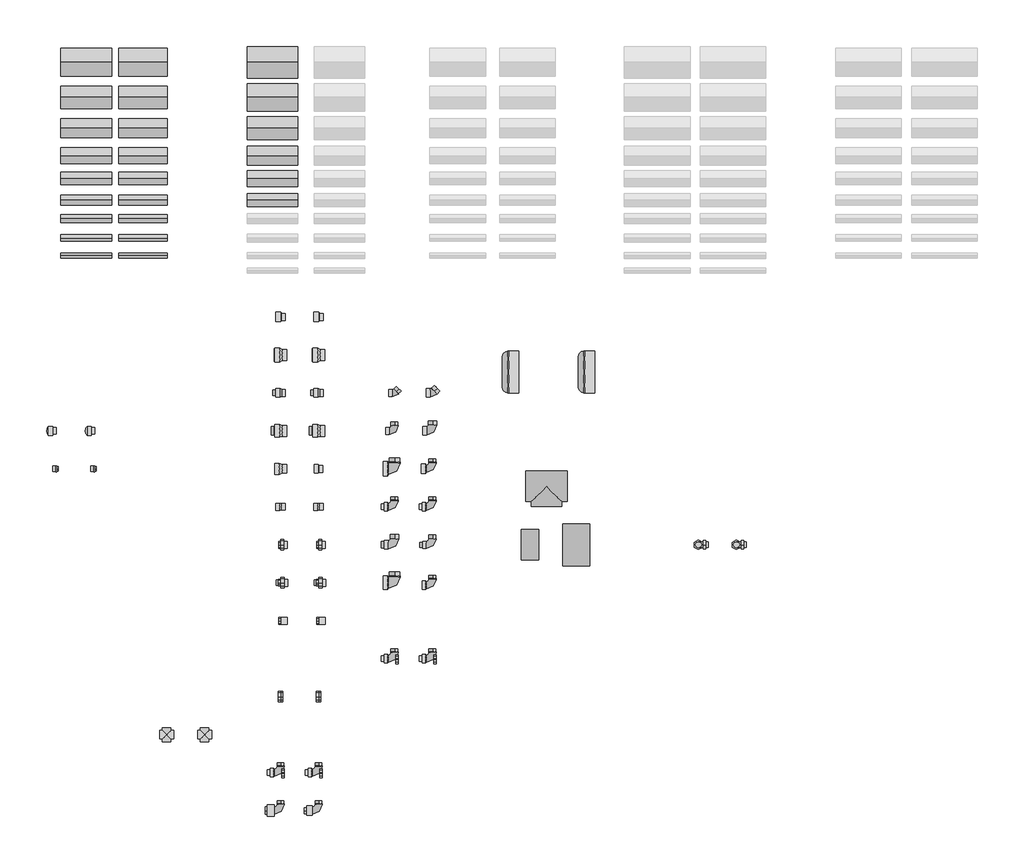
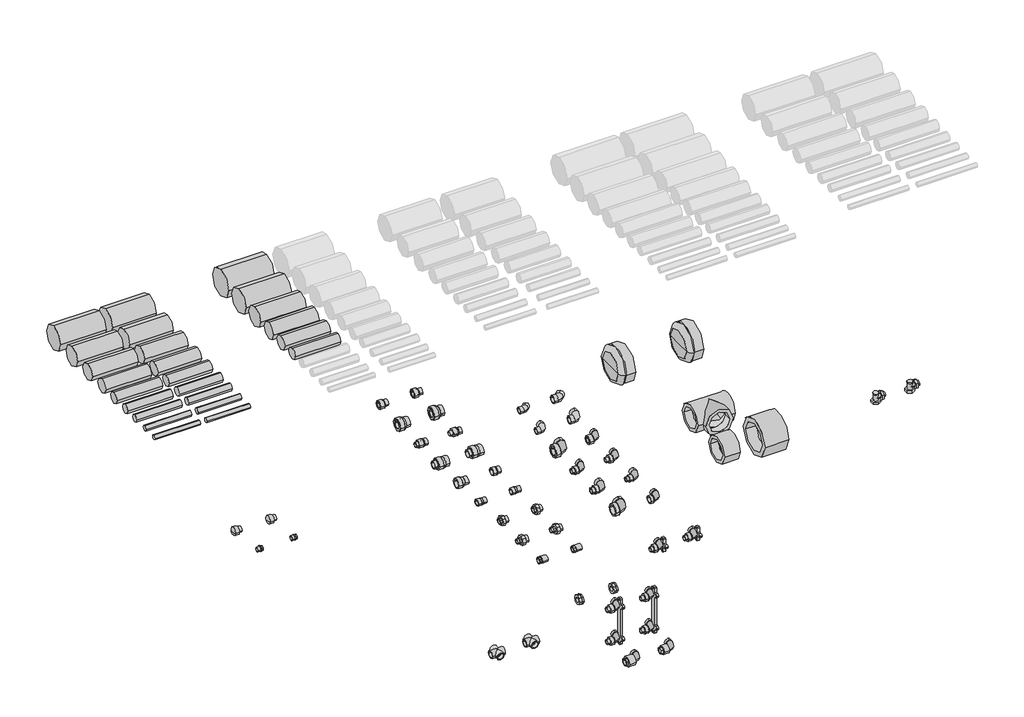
# One storey, part 1 of 4: 51 pipe fittings, 24 pipe segments.
"""IFC4 building model written with IfcOpenShell, lengths in millimetres."""

from ifc_helpers import new_model, si_unit, point, frame, frame_2d, origin, place, context, project, spatial, circle_curve, trimmed, segment, composite_curve, outline, extrude, transform, mapped, element, save
from components import pipe_fitting_8b9b9ca8, pipe_fitting_e818e856, pipe_fitting_68122e80, pipe_fitting_7646ac9f, pipe_fitting_f6f427d2, pipe_fitting_c594902a, pipe_fitting_2aa4dc1e, pipe_fitting_b7f75982, pipe_fitting_2798e5e2, pipe_fitting_6d745625, pipe_fitting_330d47a1, pipe_fitting_52d6f32c, pipe_fitting_684a8ba7, pipe_fitting_49972ef6, pipe_fitting_d9629d4b, pipe_fitting_4b135bd3, pipe_fitting_82489efc, pipe_fitting_dcf40ec0, pipe_fitting_a70e182a, pipe_fitting_a1eeb2e2, pipe_fitting_9a991c30, pipe_fitting_ed917fae, pipe_fitting_3f71ca70, pipe_fitting_843034e9, pipe_fitting_92d6d59a, pipe_fitting_425d0a09, pipe_fitting_83a6b1b9, pipe_fitting_7f82ed3a, pipe_fitting_814f7617, pipe_fitting_8fa956b8, pipe_fitting_03e7ff51, pipe_fitting_20e4d0cf, pipe_fitting_38df7a3a, pipe_fitting_f66fb6c4

model = new_model("IFC4")

# Units and contexts
model_context = context("Model", 3, world=origin())
ifc_project = project(units=[si_unit("LENGTHUNIT", "METRE", prefix="MILLI")], contexts=[model_context])

# Site, building, storey
site = spatial("IfcSite", under=ifc_project)
building = spatial("IfcBuilding", under=site)
storey = spatial("IfcBuildingStorey", under=building, Name="Уровень 1", Elevation=0.0)

# Pipe fittings
placement = place(None, origin())
pipe_fitting_shape = pipe_fitting_8b9b9ca8(model_context)
element("IfcPipeFitting", 1, ObjectType="09_Заглушка : Белый цвет", at=placement, inside=storey, context=model_context, shape_type="MappedRepresentation", body=[
    mapped(pipe_fitting_shape, transform((-1561.9180877, 3625.0515785, 0.0), x_axis=(1.0, 0.0, 0.0), y_axis=(0.0, 1.0, 0.0), z_axis=(0.0, 0.0, 1.0))),
])
element("IfcPipeFitting", 2, ObjectType="09_Заглушка : Серый цвет", at=placement, inside=storey, context=model_context, shape_type="MappedRepresentation", body=[
    mapped(pipe_fitting_shape, transform((-1261.9180877, 3625.2515785, 0.0), x_axis=(1.0, 0.0, 0.0), y_axis=(0.0, 1.0, 0.0), z_axis=(0.0, 0.0, 1.0))),
])
pipe_fitting_2_shape = pipe_fitting_e818e856(model_context)
element("IfcPipeFitting", 3, ObjectType="10_Заглушка резьбовая : Белый цвет", at=placement, inside=storey, context=model_context, shape_type="MappedRepresentation", body=[
    mapped(pipe_fitting_2_shape, transform((-3361.9180877, 3242.6515785, 0.0), x_axis=(1.0, 0.0, 0.0), y_axis=(0.0, 1.0, 0.0), z_axis=(0.0, 0.0, 1.0))),
])
element("IfcPipeFitting", 4, ObjectType="10_Заглушка резьбовая : Серый цвет", at=placement, inside=storey, context=model_context, shape_type="MappedRepresentation", body=[
    mapped(pipe_fitting_2_shape, transform((-3211.9180877, 3242.6515785, 0.0), x_axis=(1.0, 0.0, 0.0), y_axis=(0.0, 1.0, 0.0), z_axis=(0.0, 0.0, 1.0))),
])
pipe_fitting_3_shape = pipe_fitting_68122e80(model_context)
element("IfcPipeFitting", 5, ObjectType="17_Крестовина : Белый цвет", at=placement, inside=storey, context=model_context, shape_type="MappedRepresentation", body=[
    mapped(pipe_fitting_3_shape, transform((-2911.9180877, 2192.6515785, 0.0), x_axis=(1.0, 0.0, 0.0), y_axis=(0.0, 1.0, 0.0), z_axis=(0.0, 0.0, 1.0))),
])
element("IfcPipeFitting", 6, ObjectType="17_Крестовина : Серый цвет", at=placement, inside=storey, context=model_context, shape_type="MappedRepresentation", body=[
    mapped(pipe_fitting_3_shape, transform((-2761.9180877, 2192.6515785, 0.0), x_axis=(1.0, 0.0, 0.0), y_axis=(0.0, 1.0, 0.0), z_axis=(0.0, 0.0, 1.0))),
])
pipe_fitting_4_shape = pipe_fitting_7646ac9f(model_context)
element("IfcPipeFitting", 7, ObjectType="18_Муфта полипропиленовая : Белый цвет", at=placement, inside=storey, context=model_context, shape_type="MappedRepresentation", body=[
    mapped(pipe_fitting_4_shape, transform((-1294.4180877, 2942.6515785, 0.0), x_axis=(1.0, 0.0, 0.0), y_axis=(0.0, 1.0, 0.0), z_axis=(0.0, 0.0, 1.0))),
])
pipe_fitting_5_shape = pipe_fitting_f6f427d2(model_context)
element("IfcPipeFitting", 8, ObjectType="18_Муфта полипропиленовая : Серый цвет", at=placement, inside=storey, context=model_context, shape_type="MappedRepresentation", body=[
    mapped(pipe_fitting_5_shape, transform((-1477.084091, 2942.6515785, 0.0), x_axis=(1.0, 0.0, 0.0), y_axis=(0.0, 1.0, 0.0), z_axis=(0.0, 0.0, 1.0))),
])
pipe_fitting_6_shape = pipe_fitting_c594902a(model_context)
element("IfcPipeFitting", 9, ObjectType="19_Муфта комбинированная BP : Белый цвет", at=placement, inside=storey, context=model_context, shape_type="MappedRepresentation", body=[
    mapped(pipe_fitting_6_shape, transform((-2461.9180877, 3842.6515785, 0.0), x_axis=(1.0, 0.0, 0.0), y_axis=(0.0, 1.0, 0.0), z_axis=(0.0, 0.0, 1.0))),
])
element("IfcPipeFitting", 10, ObjectType="19_Муфта комбинированная BP : Серый цвет", at=placement, inside=storey, context=model_context, shape_type="MappedRepresentation", body=[
    mapped(pipe_fitting_6_shape, transform((-2311.9180877, 3842.6515785, 0.0), x_axis=(1.0, 0.0, 0.0), y_axis=(0.0, 1.0, 0.0), z_axis=(0.0, 0.0, 1.0))),
])
pipe_fitting_7_shape = pipe_fitting_2aa4dc1e(model_context)
element("IfcPipeFitting", 11, ObjectType="20_Муфта комбинированная под ключ ВР : Белый цвет", at=placement, inside=storey, context=model_context, shape_type="MappedRepresentation", body=[
    mapped(pipe_fitting_7_shape, transform((-2461.9180877, 3692.6515785, 0.0), x_axis=(1.0, 0.0, 0.0), y_axis=(0.0, 1.0, 0.0), z_axis=(0.0, 0.0, 1.0))),
])
element("IfcPipeFitting", 12, ObjectType="20_Муфта комбинированная под ключ ВР : Серый цвет", at=placement, inside=storey, context=model_context, shape_type="MappedRepresentation", body=[
    mapped(pipe_fitting_7_shape, transform((-2311.9180877, 3692.6515785, 0.0), x_axis=(1.0, 0.0, 0.0), y_axis=(0.0, 1.0, 0.0), z_axis=(0.0, 0.0, 1.0))),
])
pipe_fitting_8_shape = pipe_fitting_b7f75982(model_context)
element("IfcPipeFitting", 13, ObjectType="21_Муфта комбинированная НР : Белый цвет", at=placement, inside=storey, context=model_context, shape_type="MappedRepresentation", body=[
    mapped(pipe_fitting_8_shape, transform((-2461.9180877, 3542.6515785, 0.0), x_axis=(1.0, 0.0, 0.0), y_axis=(0.0, 1.0, 0.0), z_axis=(0.0, 0.0, 1.0))),
])
element("IfcPipeFitting", 14, ObjectType="21_Муфта комбинированная НР : Серый цвет", at=placement, inside=storey, context=model_context, shape_type="MappedRepresentation", body=[
    mapped(pipe_fitting_8_shape, transform((-2311.9180877, 3542.6515785, 0.0), x_axis=(1.0, 0.0, 0.0), y_axis=(0.0, 1.0, 0.0), z_axis=(0.0, 0.0, 1.0))),
])
pipe_fitting_9_shape = pipe_fitting_2798e5e2(model_context)
element("IfcPipeFitting", 15, ObjectType="22_Муфта комбинировання под ключ НР : Белый цвет", at=placement, inside=storey, context=model_context, shape_type="MappedRepresentation", body=[
    mapped(pipe_fitting_9_shape, transform((-2461.9180877, 3392.6515785, 0.0), x_axis=(1.0, 0.0, 0.0), y_axis=(0.0, 1.0, 0.0), z_axis=(0.0, 0.0, 1.0))),
])
element("IfcPipeFitting", 16, ObjectType="22_Муфта комбинировання под ключ НР : Серый цвет", at=placement, inside=storey, context=model_context, shape_type="MappedRepresentation", body=[
    mapped(pipe_fitting_9_shape, transform((-2311.9180877, 3392.6515785, 0.0), x_axis=(1.0, 0.0, 0.0), y_axis=(0.0, 1.0, 0.0), z_axis=(0.0, 0.0, 1.0))),
])
pipe_fitting_10_shape = pipe_fitting_6d745625(model_context)
element("IfcPipeFitting", 17, ObjectType="23_Муфта переходная ВВ : Белый цвет", at=placement, inside=storey, context=model_context, shape_type="MappedRepresentation", body=[
    mapped(pipe_fitting_10_shape, transform((-2461.9180877, 3242.6515785, 0.0), x_axis=(1.0, 0.0, 0.0), y_axis=(0.0, 1.0, 0.0), z_axis=(0.0, 0.0, 1.0))),
])
pipe_fitting_11_shape = pipe_fitting_330d47a1(model_context)
element("IfcPipeFitting", 18, ObjectType="23_Муфта переходная ВВ : Серый цвет", at=placement, inside=storey, context=model_context, shape_type="MappedRepresentation", body=[
    mapped(pipe_fitting_11_shape, transform((-2311.9180877, 3242.6515785, 0.0), x_axis=(1.0, 0.0, 0.0), y_axis=(0.0, 1.0, 0.0), z_axis=(0.0, 0.0, 1.0))),
])
pipe_fitting_12_shape = pipe_fitting_52d6f32c(model_context)
element("IfcPipeFitting", 19, ObjectType="25_Муфта комбинированная разъемная ВР : Белый цвет", at=placement, inside=storey, context=model_context, shape_type="MappedRepresentation", body=[
    mapped(pipe_fitting_12_shape, transform((-2461.9180877, 2942.6515785, 0.0), x_axis=(1.0, 0.0, 0.0), y_axis=(0.0, 1.0, 0.0), z_axis=(0.0, 0.0, 1.0))),
])
element("IfcPipeFitting", 20, ObjectType="25_Муфта комбинированная разъемная ВР : Серый цвет", at=placement, inside=storey, context=model_context, shape_type="MappedRepresentation", body=[
    mapped(pipe_fitting_12_shape, transform((-2311.9180877, 2942.6515785, 0.0), x_axis=(1.0, 0.0, 0.0), y_axis=(0.0, 1.0, 0.0), z_axis=(0.0, 0.0, 1.0))),
])
pipe_fitting_13_shape = pipe_fitting_684a8ba7(model_context)
element("IfcPipeFitting", 21, ObjectType="26_Муфта комбинированная разъемная НР : Белый цвет", at=placement, inside=storey, context=model_context, shape_type="MappedRepresentation", body=[
    mapped(pipe_fitting_13_shape, transform((-2461.9180877, 2792.6515785, 0.0), x_axis=(1.0, 0.0, 0.0), y_axis=(0.0, 1.0, 0.0), z_axis=(0.0, 0.0, 1.0))),
])
element("IfcPipeFitting", 22, ObjectType="26_Муфта комбинированная разъемная НР : Серый цвет", at=placement, inside=storey, context=model_context, shape_type="MappedRepresentation", body=[
    mapped(pipe_fitting_13_shape, transform((-2311.9180877, 2792.6515785, 0.0), x_axis=(1.0, 0.0, 0.0), y_axis=(0.0, 1.0, 0.0), z_axis=(0.0, 0.0, 1.0))),
])
pipe_fitting_14_shape = pipe_fitting_49972ef6(model_context)
element("IfcPipeFitting", 23, ObjectType="27_Муфта с накидной гайкой : Белый цвет", at=placement, inside=storey, context=model_context, shape_type="MappedRepresentation", body=[
    mapped(pipe_fitting_14_shape, transform((-2461.9180877, 2642.6515785, 0.0), x_axis=(1.0, 0.0, 0.0), y_axis=(0.0, 1.0, 0.0), z_axis=(0.0, 0.0, 1.0))),
])
element("IfcPipeFitting", 24, ObjectType="27_Муфта с накидной гайкой : Серый цвет", at=placement, inside=storey, context=model_context, shape_type="MappedRepresentation", body=[
    mapped(pipe_fitting_14_shape, transform((-2311.9180877, 2642.6515785, 0.0), x_axis=(1.0, 0.0, 0.0), y_axis=(0.0, 1.0, 0.0), z_axis=(0.0, 0.0, 1.0))),
])
pipe_fitting_15_shape = pipe_fitting_d9629d4b(model_context)
element("IfcPipeFitting", 25, ObjectType="29_Соединение разборное труба_труба : Белый цвет", at=placement, inside=storey, context=model_context, shape_type="MappedRepresentation", body=[
    mapped(pipe_fitting_15_shape, transform((-2461.9180877, 2342.6515785, 0.0), x_axis=(1.0, 0.0, 0.0), y_axis=(0.0, 1.0, 0.0), z_axis=(0.0, 0.0, 1.0))),
])
element("IfcPipeFitting", 26, ObjectType="29_Соединение разборное труба_труба : Серый цвет", at=placement, inside=storey, context=model_context, shape_type="MappedRepresentation", body=[
    mapped(pipe_fitting_15_shape, transform((-2311.9180877, 2342.6515785, 0.0), x_axis=(1.0, 0.0, 0.0), y_axis=(0.0, 1.0, 0.0), z_axis=(0.0, 0.0, 1.0))),
])
pipe_fitting_16_shape = pipe_fitting_4b135bd3(model_context)
element("IfcPipeFitting", 27, ObjectType="30_Тройник полипропиленовый : Серый цвет", at=placement, inside=storey, context=model_context, shape_type="MappedRepresentation", body=[
    mapped(pipe_fitting_16_shape, transform((-1411.9180877, 3174.7364129, 0.0), x_axis=(1.0, 0.0, 0.0), y_axis=(0.0, 1.0, 0.0), z_axis=(0.0, 0.0, 1.0))),
])
pipe_fitting_17_shape = pipe_fitting_82489efc(model_context)
element("IfcPipeFitting", 28, ObjectType="34_Угольник полипропиленовый 45 : Белый цвет", at=placement, inside=storey, context=model_context, shape_type="MappedRepresentation", body=[
    mapped(pipe_fitting_17_shape, transform((-2011.9180877, 3542.6515785, 0.0), x_axis=(1.0, 0.0, 0.0), y_axis=(0.0, 1.0, 0.0), z_axis=(0.0, 0.0, 1.0))),
])
pipe_fitting_18_shape = pipe_fitting_dcf40ec0(model_context)
element("IfcPipeFitting", 29, ObjectType="34_Угольник полипропиленовый 45 : Серый цвет", at=placement, inside=storey, context=model_context, shape_type="MappedRepresentation", body=[
    mapped(pipe_fitting_18_shape, transform((-1861.9180877, 3542.6515785, 0.0), x_axis=(1.0, 0.0, 0.0), y_axis=(0.0, 1.0, 0.0), z_axis=(0.0, 0.0, 1.0))),
])
pipe_fitting_19_shape = pipe_fitting_a70e182a(model_context)
element("IfcPipeFitting", 30, ObjectType="35_Угольник полипропиленовый 90 : Белый цвет", at=placement, inside=storey, context=model_context, shape_type="MappedRepresentation", body=[
    mapped(pipe_fitting_19_shape, transform((-2011.9180877, 3392.6515785, 0.0), x_axis=(1.0, 0.0, 0.0), y_axis=(0.0, 1.0, 0.0), z_axis=(0.0, 0.0, 1.0))),
])
pipe_fitting_20_shape = pipe_fitting_a1eeb2e2(model_context)
element("IfcPipeFitting", 31, ObjectType="35_Угольник полипропиленовый 90 : Серый цвет", at=placement, inside=storey, context=model_context, shape_type="MappedRepresentation", body=[
    mapped(pipe_fitting_20_shape, transform((-1861.9180877, 3392.6515785, 0.0), x_axis=(1.0, 0.0, 0.0), y_axis=(0.0, 1.0, 0.0), z_axis=(0.0, 0.0, 1.0))),
])
pipe_fitting_21_shape = pipe_fitting_9a991c30(model_context)
element("IfcPipeFitting", 32, ObjectType="36_Угольник комбинированный ВР : Белый цвет", at=placement, inside=storey, context=model_context, shape_type="MappedRepresentation", body=[
    mapped(pipe_fitting_21_shape, transform((-2015.5680877, 3242.6515785, 0.0), x_axis=(1.0, 0.0, 0.0), y_axis=(0.0, 1.0, 0.0), z_axis=(0.0, 0.0, 1.0))),
])
pipe_fitting_22_shape = pipe_fitting_ed917fae(model_context)
element("IfcPipeFitting", 33, ObjectType="36_Угольник комбинированный ВР : Серый цвет", at=placement, inside=storey, context=model_context, shape_type="MappedRepresentation", body=[
    mapped(pipe_fitting_22_shape, transform((-1865.5680877, 3242.6515785, 0.0), x_axis=(1.0, 0.0, 0.0), y_axis=(0.0, 1.0, 0.0), z_axis=(0.0, 0.0, 1.0))),
])
pipe_fitting_23_shape = pipe_fitting_3f71ca70(model_context)
element("IfcPipeFitting", 34, ObjectType="37_Угольник комбинированный НР : Белый цвет", at=placement, inside=storey, context=model_context, shape_type="MappedRepresentation", body=[
    mapped(pipe_fitting_23_shape, transform((-2015.5680877, 3092.6515785, 0.0), x_axis=(1.0, 0.0, 0.0), y_axis=(0.0, 1.0, 0.0), z_axis=(0.0, 0.0, 1.0))),
])
element("IfcPipeFitting", 35, ObjectType="37_Угольник комбинированный НР : Серый цвет", at=placement, inside=storey, context=model_context, shape_type="MappedRepresentation", body=[
    mapped(pipe_fitting_23_shape, transform((-1865.5680877, 3092.6515785, 0.0), x_axis=(1.0, 0.0, 0.0), y_axis=(0.0, 1.0, 0.0), z_axis=(0.0, 0.0, 1.0))),
])
pipe_fitting_24_shape = pipe_fitting_843034e9(model_context)
element("IfcPipeFitting", 36, ObjectType="39_Угольник переходной ВР НР : Белый цвет", at=placement, inside=storey, context=model_context, shape_type="MappedRepresentation", body=[
    mapped(pipe_fitting_24_shape, transform((-2015.5680877, 2942.6515785, 0.0), x_axis=(1.0, 0.0, 0.0), y_axis=(0.0, 1.0, 0.0), z_axis=(0.0, 0.0, 1.0))),
])
pipe_fitting_25_shape = pipe_fitting_92d6d59a(model_context)
element("IfcPipeFitting", 37, ObjectType="39_Угольник переходной ВР НР : Серый цвет", at=placement, inside=storey, context=model_context, shape_type="MappedRepresentation", body=[
    mapped(pipe_fitting_25_shape, transform((-1865.5680877, 2942.6515785, 0.0), x_axis=(1.0, 0.0, 0.0), y_axis=(0.0, 1.0, 0.0), z_axis=(0.0, 0.0, 1.0))),
])
pipe_fitting_26_shape = pipe_fitting_425d0a09(model_context)
element("IfcPipeFitting", 38, ObjectType="40_Угольник переходной 90 : Белый цвет", at=placement, inside=storey, context=model_context, shape_type="MappedRepresentation", body=[
    mapped(pipe_fitting_26_shape, transform((-2015.5680877, 2792.6515785, 0.0), x_axis=(1.0, 0.0, 0.0), y_axis=(0.0, 1.0, 0.0), z_axis=(0.0, 0.0, 1.0))),
])
pipe_fitting_27_shape = pipe_fitting_83a6b1b9(model_context)
element("IfcPipeFitting", 39, ObjectType="40_Угольник переходной 90 : Серый цвет", at=placement, inside=storey, context=model_context, shape_type="MappedRepresentation", body=[
    mapped(pipe_fitting_27_shape, transform((-1865.5680877, 2782.5853269, 0.0), x_axis=(1.0, 0.0, 0.0), y_axis=(0.0, 1.0, 0.0), z_axis=(0.0, 0.0, 1.0))),
])
pipe_fitting_28_shape = pipe_fitting_7f82ed3a(model_context)
element("IfcPipeFitting", 40, ObjectType="42_Угольник комбинированный с креплением НР : Белый цвет", at=placement, inside=storey, context=model_context, shape_type="MappedRepresentation", body=[
    mapped(pipe_fitting_28_shape, transform((-2015.5680877, 2492.6515785, 0.0), x_axis=(1.0, 0.0, 0.0), y_axis=(0.0, 1.0, 0.0), z_axis=(0.0, 0.0, 1.0))),
])
element("IfcPipeFitting", 41, ObjectType="42_Угольник комбинированный с креплением НР : Серый цвет", at=placement, inside=storey, context=model_context, shape_type="MappedRepresentation", body=[
    mapped(pipe_fitting_28_shape, transform((-1865.5680877, 2492.6515785, 0.0), x_axis=(1.0, 0.0, 0.0), y_axis=(0.0, 1.0, 0.0), z_axis=(0.0, 0.0, 1.0))),
])
pipe_fitting_29_shape = pipe_fitting_814f7617(model_context)
element("IfcPipeFitting", 42, ObjectType="44_Угольник комбинированный с креплением двойной НР : Белый цвет", at=placement, inside=storey, context=model_context, shape_type="MappedRepresentation", body=[
    mapped(pipe_fitting_29_shape, transform((-2465.5680877, 2042.6515785, 0.0), x_axis=(1.0, 0.0, 0.0), y_axis=(0.0, 1.0, 0.0), z_axis=(0.0, 0.0, 1.0))),
])
element("IfcPipeFitting", 43, ObjectType="44_Угольник комбинированный с креплением двойной НР : Серый цвет", at=placement, inside=storey, context=model_context, shape_type="MappedRepresentation", body=[
    mapped(pipe_fitting_29_shape, transform((-2315.5680877, 2042.6515785, 0.0), x_axis=(1.0, 0.0, 0.0), y_axis=(0.0, 1.0, 0.0), z_axis=(0.0, 0.0, 1.0))),
])
pipe_fitting_30_shape = pipe_fitting_8fa956b8(model_context)
element("IfcPipeFitting", 44, ObjectType="45_Угольник с накидной гайкой : Белый цвет", at=placement, inside=storey, context=model_context, shape_type="MappedRepresentation", body=[
    mapped(pipe_fitting_30_shape, transform((-2465.5680877, 1892.6515785, 0.0), x_axis=(1.0, 0.0, 0.0), y_axis=(0.0, 1.0, 0.0), z_axis=(0.0, 0.0, 1.0))),
])
pipe_fitting_31_shape = pipe_fitting_03e7ff51(model_context)
element("IfcPipeFitting", 45, ObjectType="45_Угольник с накидной гайкой : Серый цвет", at=placement, inside=storey, context=model_context, shape_type="MappedRepresentation", body=[
    mapped(pipe_fitting_31_shape, transform((-2315.5680877, 1892.6515785, 0.0), x_axis=(1.0, 0.0, 0.0), y_axis=(0.0, 1.0, 0.0), z_axis=(0.0, 0.0, 1.0))),
])
pipe_fitting_32_shape = pipe_fitting_20e4d0cf(model_context)
element("IfcPipeFitting", 46, ObjectType="48_Заглушка PPR коллекторная : Белый цвет", at=placement, inside=storey, context=model_context, shape_type="MappedRepresentation", body=[
    mapped(pipe_fitting_32_shape, transform((-3347.6180877, 3392.6515785, 0.0), x_axis=(1.0, 0.0, 0.0), y_axis=(0.0, 1.0, 0.0), z_axis=(0.0, 0.0, 1.0))),
])
element("IfcPipeFitting", 47, ObjectType="48_Заглушка PPR коллекторная : Серый цвет", at=placement, inside=storey, context=model_context, shape_type="MappedRepresentation", body=[
    mapped(pipe_fitting_32_shape, transform((-3195.3098045, 3392.6515785, 0.0), x_axis=(1.0, 0.0, 0.0), y_axis=(0.0, 1.0, 0.0), z_axis=(0.0, 0.0, 1.0))),
])
pipe_fitting_33_shape = pipe_fitting_38df7a3a(model_context)
element("IfcPipeFitting", 48, ObjectType="Р_07_Клапан настроечный угловой для радиатора : Белый цвет", at=placement, inside=storey, context=model_context, shape_type="MappedRepresentation", body=[
    mapped(pipe_fitting_33_shape, transform((-811.9180877, 2942.6515785, 0.0), x_axis=(1.0, 0.0, 0.0), y_axis=(0.0, 1.0, 0.0), z_axis=(0.0, 0.0, 1.0))),
])
element("IfcPipeFitting", 49, ObjectType="Р_07_Клапан настроечный угловой для радиатора : Серый цвет", at=placement, inside=storey, context=model_context, shape_type="MappedRepresentation", body=[
    mapped(pipe_fitting_33_shape, transform((-661.9180877, 2942.6515785, 0.0), x_axis=(1.0, 0.0, 0.0), y_axis=(0.0, 1.0, 0.0), z_axis=(0.0, 0.0, 1.0))),
])
pipe_fitting_34_shape = pipe_fitting_f66fb6c4(model_context)
element("IfcPipeFitting", 50, ObjectType="24_Муфта переходная НВ : Белый цвет", at=placement, inside=storey, context=model_context, shape_type="MappedRepresentation", body=[
    mapped(pipe_fitting_34_shape, transform((-2461.9180877, 3092.6515785, 0.0), x_axis=(1.0, 0.0, 0.0), y_axis=(0.0, 1.0, 0.0), z_axis=(0.0, 0.0, 1.0))),
])
element("IfcPipeFitting", 51, ObjectType="24_Муфта переходная НВ : Серый цвет", at=placement, inside=storey, context=model_context, shape_type="MappedRepresentation", body=[
    mapped(pipe_fitting_34_shape, transform((-2311.9180877, 3092.6515785, 0.0), x_axis=(1.0, 0.0, 0.0), y_axis=(0.0, 1.0, 0.0), z_axis=(0.0, 0.0, 1.0))),
])

# Pipe segments
element("IfcPipeSegment", 52, ObjectType="PN10/SDR11, 4 м_Серый цвет", at=placement, inside=storey, context=model_context, shape_type="SweptSolid", body=[
    extrude(outline(composite_curve([segment(trimmed(circle_curve(frame_2d((4848.4107276, 0.0)), 55.0), [point((4793.4107276, 0.0))], [point((4848.4107276, 55.0))], False, "CARTESIAN"), True, "CONTINUOUS"), segment(trimmed(circle_curve(frame_2d((4848.4107276, 0.0)), 55.0), [point((4848.4107276, 55.0))], [point((4903.4107276, 0.0))], False, "CARTESIAN"), True, "CONTINUOUS"), segment(trimmed(circle_curve(frame_2d((4848.4107276, 0.0)), 55.0), [point((4903.4107276, 0.0))], [point((4848.4107276, -55.0))], False, "CARTESIAN"), True, "CONTINUOUS"), segment(trimmed(circle_curve(frame_2d((4848.4107276, 0.0)), 55.0), [point((4848.4107276, -55.0))], [point((4793.4107276, 0.0))], False, "CARTESIAN"), True, "CONTINUOUS")], self_intersect=False)), frame((-3329.1554508, 0.0, 0.0), z_axis=(1.0, 0.0, 0.0), x_axis=(0.0, 1.0, 0.0)), (0.0, 0.0, 1.0), 200.0),
])
element("IfcPipeSegment", 53, ObjectType="PN10/SDR11, 4 м_Серый цвет", at=placement, inside=storey, context=model_context, shape_type="SweptSolid", body=[
    extrude(outline(composite_curve([segment(trimmed(circle_curve(frame_2d((4709.8355043, 0.0)), 45.0), [point((4664.8355043, 0.0))], [point((4709.8355043, 45.0))], False, "CARTESIAN"), True, "CONTINUOUS"), segment(trimmed(circle_curve(frame_2d((4709.8355043, 0.0)), 45.0), [point((4709.8355043, 45.0))], [point((4754.8355043, 0.0))], False, "CARTESIAN"), True, "CONTINUOUS"), segment(trimmed(circle_curve(frame_2d((4709.8355043, 0.0)), 45.0), [point((4754.8355043, 0.0))], [point((4709.8355043, -45.0))], False, "CARTESIAN"), True, "CONTINUOUS"), segment(trimmed(circle_curve(frame_2d((4709.8355043, 0.0)), 45.0), [point((4709.8355043, -45.0))], [point((4664.8355043, 0.0))], False, "CARTESIAN"), True, "CONTINUOUS")], self_intersect=False)), frame((-3329.1554508, 0.0, 0.0), z_axis=(1.0, 0.0, 0.0), x_axis=(0.0, 1.0, 0.0)), (0.0, 0.0, 1.0), 200.0),
])
element("IfcPipeSegment", 54, ObjectType="PN10/SDR11, 4 м_Серый цвет", at=placement, inside=storey, context=model_context, shape_type="SweptSolid", body=[
    extrude(outline(composite_curve([segment(trimmed(circle_curve(frame_2d((4588.2982183, 0.0)), 37.5), [point((4550.7982183, 0.0))], [point((4588.2982183, 37.5))], False, "CARTESIAN"), True, "CONTINUOUS"), segment(trimmed(circle_curve(frame_2d((4588.2982183, 0.0)), 37.5), [point((4588.2982183, 37.5))], [point((4625.7982183, 0.0))], False, "CARTESIAN"), True, "CONTINUOUS"), segment(trimmed(circle_curve(frame_2d((4588.2982183, 0.0)), 37.5), [point((4625.7982183, 0.0))], [point((4588.2982183, -37.5))], False, "CARTESIAN"), True, "CONTINUOUS"), segment(trimmed(circle_curve(frame_2d((4588.2982183, 0.0)), 37.5), [point((4588.2982183, -37.5))], [point((4550.7982183, 0.0))], False, "CARTESIAN"), True, "CONTINUOUS")], self_intersect=False)), frame((-3329.1554508, 0.0, 0.0), z_axis=(1.0, 0.0, 0.0), x_axis=(0.0, 1.0, 0.0)), (0.0, 0.0, 1.0), 200.0),
])
element("IfcPipeSegment", 55, ObjectType="PN10/SDR11, 4 м_Серый цвет", at=placement, inside=storey, context=model_context, shape_type="SweptSolid", body=[
    extrude(outline(composite_curve([segment(trimmed(circle_curve(frame_2d((4480.6238499, 0.0)), 31.5), [point((4449.1238499, 0.0))], [point((4480.6238499, 31.5))], False, "CARTESIAN"), True, "CONTINUOUS"), segment(trimmed(circle_curve(frame_2d((4480.6238499, 0.0)), 31.5), [point((4480.6238499, 31.5))], [point((4512.1238499, 0.0))], False, "CARTESIAN"), True, "CONTINUOUS"), segment(trimmed(circle_curve(frame_2d((4480.6238499, 0.0)), 31.5), [point((4512.1238499, 0.0))], [point((4480.6238499, -31.5))], False, "CARTESIAN"), True, "CONTINUOUS"), segment(trimmed(circle_curve(frame_2d((4480.6238499, 0.0)), 31.5), [point((4480.6238499, -31.5))], [point((4449.1238499, 0.0))], False, "CARTESIAN"), True, "CONTINUOUS")], self_intersect=False)), frame((-3329.1554508, 0.0, 0.0), z_axis=(1.0, 0.0, 0.0), x_axis=(0.0, 1.0, 0.0)), (0.0, 0.0, 1.0), 200.0),
])
element("IfcPipeSegment", 56, ObjectType="PN10/SDR11, 4 м_Серый цвет", at=placement, inside=storey, context=model_context, shape_type="SweptSolid", body=[
    extrude(outline(composite_curve([segment(trimmed(circle_curve(frame_2d((4389.5013485, 0.0)), 25.0), [point((4364.5013485, 0.0))], [point((4389.5013485, 25.0))], False, "CARTESIAN"), True, "CONTINUOUS"), segment(trimmed(circle_curve(frame_2d((4389.5013485, 0.0)), 25.0), [point((4389.5013485, 25.0))], [point((4414.5013485, 0.0))], False, "CARTESIAN"), True, "CONTINUOUS"), segment(trimmed(circle_curve(frame_2d((4389.5013485, 0.0)), 25.0), [point((4414.5013485, 0.0))], [point((4389.5013485, -25.0))], False, "CARTESIAN"), True, "CONTINUOUS"), segment(trimmed(circle_curve(frame_2d((4389.5013485, 0.0)), 25.0), [point((4389.5013485, -25.0))], [point((4364.5013485, 0.0))], False, "CARTESIAN"), True, "CONTINUOUS")], self_intersect=False)), frame((-3329.1554508, 0.0, 0.0), z_axis=(1.0, 0.0, 0.0), x_axis=(0.0, 1.0, 0.0)), (0.0, 0.0, 1.0), 200.0),
])
element("IfcPipeSegment", 57, ObjectType="PN10/SDR11, 4 м_Серый цвет", at=placement, inside=storey, context=model_context, shape_type="SweptSolid", body=[
    extrude(outline(composite_curve([segment(trimmed(circle_curve(frame_2d((4303.8771946, 0.0)), 20.0), [point((4283.8771946, 0.0))], [point((4303.8771946, 20.0))], False, "CARTESIAN"), True, "CONTINUOUS"), segment(trimmed(circle_curve(frame_2d((4303.8771946, 0.0)), 20.0), [point((4303.8771946, 20.0))], [point((4323.8771946, 0.0))], False, "CARTESIAN"), True, "CONTINUOUS"), segment(trimmed(circle_curve(frame_2d((4303.8771946, 0.0)), 20.0), [point((4323.8771946, 0.0))], [point((4303.8771946, -20.0))], False, "CARTESIAN"), True, "CONTINUOUS"), segment(trimmed(circle_curve(frame_2d((4303.8771946, 0.0)), 20.0), [point((4303.8771946, -20.0))], [point((4283.8771946, 0.0))], False, "CARTESIAN"), True, "CONTINUOUS")], self_intersect=False)), frame((-3329.1554508, 0.0, 0.0), z_axis=(1.0, 0.0, 0.0), x_axis=(0.0, 1.0, 0.0)), (0.0, 0.0, 1.0), 200.0),
])
element("IfcPipeSegment", 58, ObjectType="PN10/SDR11, 4 м_Серый цвет", at=placement, inside=storey, context=model_context, shape_type="SweptSolid", body=[
    extrude(outline(composite_curve([segment(trimmed(circle_curve(frame_2d((4230.5606883, 0.0)), 16.0), [point((4214.5606883, 0.0))], [point((4230.5606883, 16.0))], False, "CARTESIAN"), True, "CONTINUOUS"), segment(trimmed(circle_curve(frame_2d((4230.5606883, 0.0)), 16.0), [point((4230.5606883, 16.0))], [point((4246.5606883, 0.0))], False, "CARTESIAN"), True, "CONTINUOUS"), segment(trimmed(circle_curve(frame_2d((4230.5606883, 0.0)), 16.0), [point((4246.5606883, 0.0))], [point((4230.5606883, -16.0))], False, "CARTESIAN"), True, "CONTINUOUS"), segment(trimmed(circle_curve(frame_2d((4230.5606883, 0.0)), 16.0), [point((4230.5606883, -16.0))], [point((4214.5606883, 0.0))], False, "CARTESIAN"), True, "CONTINUOUS")], self_intersect=False)), frame((-3329.1554508, 0.0, 0.0), z_axis=(1.0, 0.0, 0.0), x_axis=(0.0, 1.0, 0.0)), (0.0, 0.0, 1.0), 200.0),
])
element("IfcPipeSegment", 59, ObjectType="PN10/SDR11, 4 м_Серый цвет", at=placement, inside=storey, context=model_context, shape_type="SweptSolid", body=[
    extrude(outline(composite_curve([segment(trimmed(circle_curve(frame_2d((4154.7986605, 0.0)), 12.5), [point((4142.2986605, 0.0))], [point((4154.7986605, 12.5))], False, "CARTESIAN"), True, "CONTINUOUS"), segment(trimmed(circle_curve(frame_2d((4154.7986605, 0.0)), 12.5), [point((4154.7986605, 12.5))], [point((4167.2986605, 0.0))], False, "CARTESIAN"), True, "CONTINUOUS"), segment(trimmed(circle_curve(frame_2d((4154.7986605, 0.0)), 12.5), [point((4167.2986605, 0.0))], [point((4154.7986605, -12.5))], False, "CARTESIAN"), True, "CONTINUOUS"), segment(trimmed(circle_curve(frame_2d((4154.7986605, 0.0)), 12.5), [point((4154.7986605, -12.5))], [point((4142.2986605, 0.0))], False, "CARTESIAN"), True, "CONTINUOUS")], self_intersect=False)), frame((-3329.1554508, 0.0, 0.0), z_axis=(1.0, 0.0, 0.0), x_axis=(0.0, 1.0, 0.0)), (0.0, 0.0, 1.0), 200.0),
])
element("IfcPipeSegment", 60, ObjectType="PN10/SDR11, 4 м_Серый цвет", at=placement, inside=storey, context=model_context, shape_type="SweptSolid", body=[
    extrude(outline(composite_curve([segment(trimmed(circle_curve(frame_2d((4085.0159711, 0.0)), 10.0), [point((4075.0159711, 0.0))], [point((4085.0159711, 10.0))], False, "CARTESIAN"), True, "CONTINUOUS"), segment(trimmed(circle_curve(frame_2d((4085.0159711, 0.0)), 10.0), [point((4085.0159711, 10.0))], [point((4095.0159711, 0.0))], False, "CARTESIAN"), True, "CONTINUOUS"), segment(trimmed(circle_curve(frame_2d((4085.0159711, 0.0)), 10.0), [point((4095.0159711, 0.0))], [point((4085.0159711, -10.0))], False, "CARTESIAN"), True, "CONTINUOUS"), segment(trimmed(circle_curve(frame_2d((4085.0159711, 0.0)), 10.0), [point((4085.0159711, -10.0))], [point((4075.0159711, 0.0))], False, "CARTESIAN"), True, "CONTINUOUS")], self_intersect=False)), frame((-3329.1554508, 0.0, 0.0), z_axis=(1.0, 0.0, 0.0), x_axis=(0.0, 1.0, 0.0)), (0.0, 0.0, 1.0), 200.0),
])
element("IfcPipeSegment", 61, ObjectType="PN10/SDR11, 4 м_Белый цвет", at=placement, inside=storey, context=model_context, shape_type="SweptSolid", body=[
    extrude(outline(composite_curve([segment(trimmed(circle_curve(frame_2d((4848.4107276, 0.0)), 55.0), [point((4793.4107276, 0.0))], [point((4848.4107276, 55.0))], False, "CARTESIAN"), True, "CONTINUOUS"), segment(trimmed(circle_curve(frame_2d((4848.4107276, 0.0)), 55.0), [point((4848.4107276, 55.0))], [point((4903.4107276, 0.0))], False, "CARTESIAN"), True, "CONTINUOUS"), segment(trimmed(circle_curve(frame_2d((4848.4107276, 0.0)), 55.0), [point((4903.4107276, 0.0))], [point((4848.4107276, -55.0))], False, "CARTESIAN"), True, "CONTINUOUS"), segment(trimmed(circle_curve(frame_2d((4848.4107276, 0.0)), 55.0), [point((4848.4107276, -55.0))], [point((4793.4107276, 0.0))], False, "CARTESIAN"), True, "CONTINUOUS")], self_intersect=False)), frame((-3100.6473903, 0.0, 0.0), z_axis=(1.0, 0.0, 0.0), x_axis=(0.0, 1.0, 0.0)), (0.0, 0.0, 1.0), 191.4919395),
])
element("IfcPipeSegment", 62, ObjectType="PN10/SDR11, 4 м_Белый цвет", at=placement, inside=storey, context=model_context, shape_type="SweptSolid", body=[
    extrude(outline(composite_curve([segment(trimmed(circle_curve(frame_2d((4709.8355043, 0.0)), 45.0), [point((4664.8355043, 0.0))], [point((4709.8355043, 45.0))], False, "CARTESIAN"), True, "CONTINUOUS"), segment(trimmed(circle_curve(frame_2d((4709.8355043, 0.0)), 45.0), [point((4709.8355043, 45.0))], [point((4754.8355043, 0.0))], False, "CARTESIAN"), True, "CONTINUOUS"), segment(trimmed(circle_curve(frame_2d((4709.8355043, 0.0)), 45.0), [point((4754.8355043, 0.0))], [point((4709.8355043, -45.0))], False, "CARTESIAN"), True, "CONTINUOUS"), segment(trimmed(circle_curve(frame_2d((4709.8355043, 0.0)), 45.0), [point((4709.8355043, -45.0))], [point((4664.8355043, 0.0))], False, "CARTESIAN"), True, "CONTINUOUS")], self_intersect=False)), frame((-3100.6473903, 0.0, 0.0), z_axis=(1.0, 0.0, 0.0), x_axis=(0.0, 1.0, 0.0)), (0.0, 0.0, 1.0), 191.4919395),
])
element("IfcPipeSegment", 63, ObjectType="PN10/SDR11, 4 м_Белый цвет", at=placement, inside=storey, context=model_context, shape_type="SweptSolid", body=[
    extrude(outline(composite_curve([segment(trimmed(circle_curve(frame_2d((4588.2982183, 0.0)), 37.5), [point((4550.7982183, 0.0))], [point((4588.2982183, 37.5))], False, "CARTESIAN"), True, "CONTINUOUS"), segment(trimmed(circle_curve(frame_2d((4588.2982183, 0.0)), 37.5), [point((4588.2982183, 37.5))], [point((4625.7982183, 0.0))], False, "CARTESIAN"), True, "CONTINUOUS"), segment(trimmed(circle_curve(frame_2d((4588.2982183, 0.0)), 37.5), [point((4625.7982183, 0.0))], [point((4588.2982183, -37.5))], False, "CARTESIAN"), True, "CONTINUOUS"), segment(trimmed(circle_curve(frame_2d((4588.2982183, 0.0)), 37.5), [point((4588.2982183, -37.5))], [point((4550.7982183, 0.0))], False, "CARTESIAN"), True, "CONTINUOUS")], self_intersect=False)), frame((-3100.6473903, 0.0, 0.0), z_axis=(1.0, 0.0, 0.0), x_axis=(0.0, 1.0, 0.0)), (0.0, 0.0, 1.0), 191.4919395),
])
element("IfcPipeSegment", 64, ObjectType="PN10/SDR11, 4 м_Белый цвет", at=placement, inside=storey, context=model_context, shape_type="SweptSolid", body=[
    extrude(outline(composite_curve([segment(trimmed(circle_curve(frame_2d((4480.6238499, 0.0)), 31.5), [point((4449.1238499, 0.0))], [point((4480.6238499, 31.5))], False, "CARTESIAN"), True, "CONTINUOUS"), segment(trimmed(circle_curve(frame_2d((4480.6238499, 0.0)), 31.5), [point((4480.6238499, 31.5))], [point((4512.1238499, 0.0))], False, "CARTESIAN"), True, "CONTINUOUS"), segment(trimmed(circle_curve(frame_2d((4480.6238499, 0.0)), 31.5), [point((4512.1238499, 0.0))], [point((4480.6238499, -31.5))], False, "CARTESIAN"), True, "CONTINUOUS"), segment(trimmed(circle_curve(frame_2d((4480.6238499, 0.0)), 31.5), [point((4480.6238499, -31.5))], [point((4449.1238499, 0.0))], False, "CARTESIAN"), True, "CONTINUOUS")], self_intersect=False)), frame((-3100.6473903, 0.0, 0.0), z_axis=(1.0, 0.0, 0.0), x_axis=(0.0, 1.0, 0.0)), (0.0, 0.0, 1.0), 191.4919395),
])
element("IfcPipeSegment", 65, ObjectType="PN10/SDR11, 4 м_Белый цвет", at=placement, inside=storey, context=model_context, shape_type="SweptSolid", body=[
    extrude(outline(composite_curve([segment(trimmed(circle_curve(frame_2d((4389.5013485, 0.0)), 25.0), [point((4364.5013485, 0.0))], [point((4389.5013485, 25.0))], False, "CARTESIAN"), True, "CONTINUOUS"), segment(trimmed(circle_curve(frame_2d((4389.5013485, 0.0)), 25.0), [point((4389.5013485, 25.0))], [point((4414.5013485, 0.0))], False, "CARTESIAN"), True, "CONTINUOUS"), segment(trimmed(circle_curve(frame_2d((4389.5013485, 0.0)), 25.0), [point((4414.5013485, 0.0))], [point((4389.5013485, -25.0))], False, "CARTESIAN"), True, "CONTINUOUS"), segment(trimmed(circle_curve(frame_2d((4389.5013485, 0.0)), 25.0), [point((4389.5013485, -25.0))], [point((4364.5013485, 0.0))], False, "CARTESIAN"), True, "CONTINUOUS")], self_intersect=False)), frame((-3100.6473903, 0.0, 0.0), z_axis=(1.0, 0.0, 0.0), x_axis=(0.0, 1.0, 0.0)), (0.0, 0.0, 1.0), 191.4919395),
])
element("IfcPipeSegment", 66, ObjectType="PN10/SDR11, 4 м_Белый цвет", at=placement, inside=storey, context=model_context, shape_type="SweptSolid", body=[
    extrude(outline(composite_curve([segment(trimmed(circle_curve(frame_2d((4303.8771946, 0.0)), 20.0), [point((4283.8771946, 0.0))], [point((4303.8771946, 20.0))], False, "CARTESIAN"), True, "CONTINUOUS"), segment(trimmed(circle_curve(frame_2d((4303.8771946, 0.0)), 20.0), [point((4303.8771946, 20.0))], [point((4323.8771946, 0.0))], False, "CARTESIAN"), True, "CONTINUOUS"), segment(trimmed(circle_curve(frame_2d((4303.8771946, 0.0)), 20.0), [point((4323.8771946, 0.0))], [point((4303.8771946, -20.0))], False, "CARTESIAN"), True, "CONTINUOUS"), segment(trimmed(circle_curve(frame_2d((4303.8771946, 0.0)), 20.0), [point((4303.8771946, -20.0))], [point((4283.8771946, 0.0))], False, "CARTESIAN"), True, "CONTINUOUS")], self_intersect=False)), frame((-3100.6473903, 0.0, 0.0), z_axis=(1.0, 0.0, 0.0), x_axis=(0.0, 1.0, 0.0)), (0.0, 0.0, 1.0), 191.4919395),
])
element("IfcPipeSegment", 67, ObjectType="PN10/SDR11, 4 м_Белый цвет", at=placement, inside=storey, context=model_context, shape_type="SweptSolid", body=[
    extrude(outline(composite_curve([segment(trimmed(circle_curve(frame_2d((4230.5606883, 0.0)), 16.0), [point((4214.5606883, 0.0))], [point((4230.5606883, 16.0))], False, "CARTESIAN"), True, "CONTINUOUS"), segment(trimmed(circle_curve(frame_2d((4230.5606883, 0.0)), 16.0), [point((4230.5606883, 16.0))], [point((4246.5606883, 0.0))], False, "CARTESIAN"), True, "CONTINUOUS"), segment(trimmed(circle_curve(frame_2d((4230.5606883, 0.0)), 16.0), [point((4246.5606883, 0.0))], [point((4230.5606883, -16.0))], False, "CARTESIAN"), True, "CONTINUOUS"), segment(trimmed(circle_curve(frame_2d((4230.5606883, 0.0)), 16.0), [point((4230.5606883, -16.0))], [point((4214.5606883, 0.0))], False, "CARTESIAN"), True, "CONTINUOUS")], self_intersect=False)), frame((-3100.6473903, 0.0, 0.0), z_axis=(1.0, 0.0, 0.0), x_axis=(0.0, 1.0, 0.0)), (0.0, 0.0, 1.0), 191.4919395),
])
element("IfcPipeSegment", 68, ObjectType="PN10/SDR11, 4 м_Белый цвет", at=placement, inside=storey, context=model_context, shape_type="SweptSolid", body=[
    extrude(outline(composite_curve([segment(trimmed(circle_curve(frame_2d((4154.7986605, 0.0)), 12.5), [point((4142.2986605, 0.0))], [point((4154.7986605, 12.5))], False, "CARTESIAN"), True, "CONTINUOUS"), segment(trimmed(circle_curve(frame_2d((4154.7986605, 0.0)), 12.5), [point((4154.7986605, 12.5))], [point((4167.2986605, 0.0))], False, "CARTESIAN"), True, "CONTINUOUS"), segment(trimmed(circle_curve(frame_2d((4154.7986605, 0.0)), 12.5), [point((4167.2986605, 0.0))], [point((4154.7986605, -12.5))], False, "CARTESIAN"), True, "CONTINUOUS"), segment(trimmed(circle_curve(frame_2d((4154.7986605, 0.0)), 12.5), [point((4154.7986605, -12.5))], [point((4142.2986605, 0.0))], False, "CARTESIAN"), True, "CONTINUOUS")], self_intersect=False)), frame((-3100.6473903, 0.0, 0.0), z_axis=(1.0, 0.0, 0.0), x_axis=(0.0, 1.0, 0.0)), (0.0, 0.0, 1.0), 191.4919395),
])
element("IfcPipeSegment", 69, ObjectType="PN10/SDR11, 4 м_Белый цвет", at=placement, inside=storey, context=model_context, shape_type="SweptSolid", body=[
    extrude(outline(composite_curve([segment(trimmed(circle_curve(frame_2d((4085.0159711, 0.0)), 10.0), [point((4075.0159711, 0.0))], [point((4085.0159711, 10.0))], False, "CARTESIAN"), True, "CONTINUOUS"), segment(trimmed(circle_curve(frame_2d((4085.0159711, 0.0)), 10.0), [point((4085.0159711, 10.0))], [point((4095.0159711, 0.0))], False, "CARTESIAN"), True, "CONTINUOUS"), segment(trimmed(circle_curve(frame_2d((4085.0159711, 0.0)), 10.0), [point((4095.0159711, 0.0))], [point((4085.0159711, -10.0))], False, "CARTESIAN"), True, "CONTINUOUS"), segment(trimmed(circle_curve(frame_2d((4085.0159711, 0.0)), 10.0), [point((4085.0159711, -10.0))], [point((4075.0159711, 0.0))], False, "CARTESIAN"), True, "CONTINUOUS")], self_intersect=False)), frame((-3100.6473903, 0.0, 0.0), z_axis=(1.0, 0.0, 0.0), x_axis=(0.0, 1.0, 0.0)), (0.0, 0.0, 1.0), 191.4919395),
])
element("IfcPipeSegment", 70, ObjectType="PN20/SDR6, 4 м_Серый цвет", at=placement, inside=storey, context=model_context, shape_type="SweptSolid", body=[
    extrude(outline(composite_curve([segment(trimmed(circle_curve(frame_2d((4848.4107276, 0.0)), 62.5), [point((4785.9107276, 0.0))], [point((4848.4107276, 62.5))], False, "CARTESIAN"), True, "CONTINUOUS"), segment(trimmed(circle_curve(frame_2d((4848.4107276, 0.0)), 62.5), [point((4848.4107276, 62.5))], [point((4910.9107276, 0.0))], False, "CARTESIAN"), True, "CONTINUOUS"), segment(trimmed(circle_curve(frame_2d((4848.4107276, 0.0)), 62.5), [point((4910.9107276, 0.0))], [point((4848.4107276, -62.5))], False, "CARTESIAN"), True, "CONTINUOUS"), segment(trimmed(circle_curve(frame_2d((4848.4107276, 0.0)), 62.5), [point((4848.4107276, -62.5))], [point((4785.9107276, 0.0))], False, "CARTESIAN"), True, "CONTINUOUS")], self_intersect=False)), frame((-2594.1554508, 0.0, 0.0), z_axis=(1.0, 0.0, 0.0), x_axis=(0.0, 1.0, 0.0)), (0.0, 0.0, 1.0), 200.0),
])
element("IfcPipeSegment", 71, ObjectType="PN20/SDR6, 4 м_Серый цвет", at=placement, inside=storey, context=model_context, shape_type="SweptSolid", body=[
    extrude(outline(composite_curve([segment(trimmed(circle_curve(frame_2d((4709.8355043, 0.0)), 55.0), [point((4654.8355043, 0.0))], [point((4709.8355043, 55.0))], False, "CARTESIAN"), True, "CONTINUOUS"), segment(trimmed(circle_curve(frame_2d((4709.8355043, 0.0)), 55.0), [point((4709.8355043, 55.0))], [point((4764.8355043, 0.0))], False, "CARTESIAN"), True, "CONTINUOUS"), segment(trimmed(circle_curve(frame_2d((4709.8355043, 0.0)), 55.0), [point((4764.8355043, 0.0))], [point((4709.8355043, -55.0))], False, "CARTESIAN"), True, "CONTINUOUS"), segment(trimmed(circle_curve(frame_2d((4709.8355043, 0.0)), 55.0), [point((4709.8355043, -55.0))], [point((4654.8355043, 0.0))], False, "CARTESIAN"), True, "CONTINUOUS")], self_intersect=False)), frame((-2594.1554508, 0.0, 0.0), z_axis=(1.0, 0.0, 0.0), x_axis=(0.0, 1.0, 0.0)), (0.0, 0.0, 1.0), 200.0),
])
element("IfcPipeSegment", 72, ObjectType="PN20/SDR6, 4 м_Серый цвет", at=placement, inside=storey, context=model_context, shape_type="SweptSolid", body=[
    extrude(outline(composite_curve([segment(trimmed(circle_curve(frame_2d((4588.2982183, 0.0)), 45.0), [point((4543.2982183, 0.0))], [point((4588.2982183, 45.0))], False, "CARTESIAN"), True, "CONTINUOUS"), segment(trimmed(circle_curve(frame_2d((4588.2982183, 0.0)), 45.0), [point((4588.2982183, 45.0))], [point((4633.2982183, 0.0))], False, "CARTESIAN"), True, "CONTINUOUS"), segment(trimmed(circle_curve(frame_2d((4588.2982183, 0.0)), 45.0), [point((4633.2982183, 0.0))], [point((4588.2982183, -45.0))], False, "CARTESIAN"), True, "CONTINUOUS"), segment(trimmed(circle_curve(frame_2d((4588.2982183, 0.0)), 45.0), [point((4588.2982183, -45.0))], [point((4543.2982183, 0.0))], False, "CARTESIAN"), True, "CONTINUOUS")], self_intersect=False)), frame((-2594.1554508, 0.0, 0.0), z_axis=(1.0, 0.0, 0.0), x_axis=(0.0, 1.0, 0.0)), (0.0, 0.0, 1.0), 200.0),
])
element("IfcPipeSegment", 73, ObjectType="PN20/SDR6, 4 м_Серый цвет", at=placement, inside=storey, context=model_context, shape_type="SweptSolid", body=[
    extrude(outline(composite_curve([segment(trimmed(circle_curve(frame_2d((4480.6238499, 0.0)), 37.5), [point((4443.1238499, 0.0))], [point((4480.6238499, 37.5))], False, "CARTESIAN"), True, "CONTINUOUS"), segment(trimmed(circle_curve(frame_2d((4480.6238499, 0.0)), 37.5), [point((4480.6238499, 37.5))], [point((4518.1238499, 0.0))], False, "CARTESIAN"), True, "CONTINUOUS"), segment(trimmed(circle_curve(frame_2d((4480.6238499, 0.0)), 37.5), [point((4518.1238499, 0.0))], [point((4480.6238499, -37.5))], False, "CARTESIAN"), True, "CONTINUOUS"), segment(trimmed(circle_curve(frame_2d((4480.6238499, 0.0)), 37.5), [point((4480.6238499, -37.5))], [point((4443.1238499, 0.0))], False, "CARTESIAN"), True, "CONTINUOUS")], self_intersect=False)), frame((-2594.1554508, 0.0, 0.0), z_axis=(1.0, 0.0, 0.0), x_axis=(0.0, 1.0, 0.0)), (0.0, 0.0, 1.0), 200.0),
])
element("IfcPipeSegment", 74, ObjectType="PN20/SDR6, 4 м_Серый цвет", at=placement, inside=storey, context=model_context, shape_type="SweptSolid", body=[
    extrude(outline(composite_curve([segment(trimmed(circle_curve(frame_2d((4389.5013485, 0.0)), 31.5), [point((4358.0013485, 0.0))], [point((4389.5013485, 31.5))], False, "CARTESIAN"), True, "CONTINUOUS"), segment(trimmed(circle_curve(frame_2d((4389.5013485, 0.0)), 31.5), [point((4389.5013485, 31.5))], [point((4421.0013485, 0.0))], False, "CARTESIAN"), True, "CONTINUOUS"), segment(trimmed(circle_curve(frame_2d((4389.5013485, 0.0)), 31.5), [point((4421.0013485, 0.0))], [point((4389.5013485, -31.5))], False, "CARTESIAN"), True, "CONTINUOUS"), segment(trimmed(circle_curve(frame_2d((4389.5013485, 0.0)), 31.5), [point((4389.5013485, -31.5))], [point((4358.0013485, 0.0))], False, "CARTESIAN"), True, "CONTINUOUS")], self_intersect=False)), frame((-2594.1554508, 0.0, 0.0), z_axis=(1.0, 0.0, 0.0), x_axis=(0.0, 1.0, 0.0)), (0.0, 0.0, 1.0), 200.0),
])
element("IfcPipeSegment", 75, ObjectType="PN20/SDR6, 4 м_Серый цвет", at=placement, inside=storey, context=model_context, shape_type="SweptSolid", body=[
    extrude(outline(composite_curve([segment(trimmed(circle_curve(frame_2d((4303.8771946, 0.0)), 25.0), [point((4278.8771946, 0.0))], [point((4303.8771946, 25.0))], False, "CARTESIAN"), True, "CONTINUOUS"), segment(trimmed(circle_curve(frame_2d((4303.8771946, 0.0)), 25.0), [point((4303.8771946, 25.0))], [point((4328.8771946, 0.0))], False, "CARTESIAN"), True, "CONTINUOUS"), segment(trimmed(circle_curve(frame_2d((4303.8771946, 0.0)), 25.0), [point((4328.8771946, 0.0))], [point((4303.8771946, -25.0))], False, "CARTESIAN"), True, "CONTINUOUS"), segment(trimmed(circle_curve(frame_2d((4303.8771946, 0.0)), 25.0), [point((4303.8771946, -25.0))], [point((4278.8771946, 0.0))], False, "CARTESIAN"), True, "CONTINUOUS")], self_intersect=False)), frame((-2594.1554508, 0.0, 0.0), z_axis=(1.0, 0.0, 0.0), x_axis=(0.0, 1.0, 0.0)), (0.0, 0.0, 1.0), 200.0),
])

save(model, "model.ifc")
